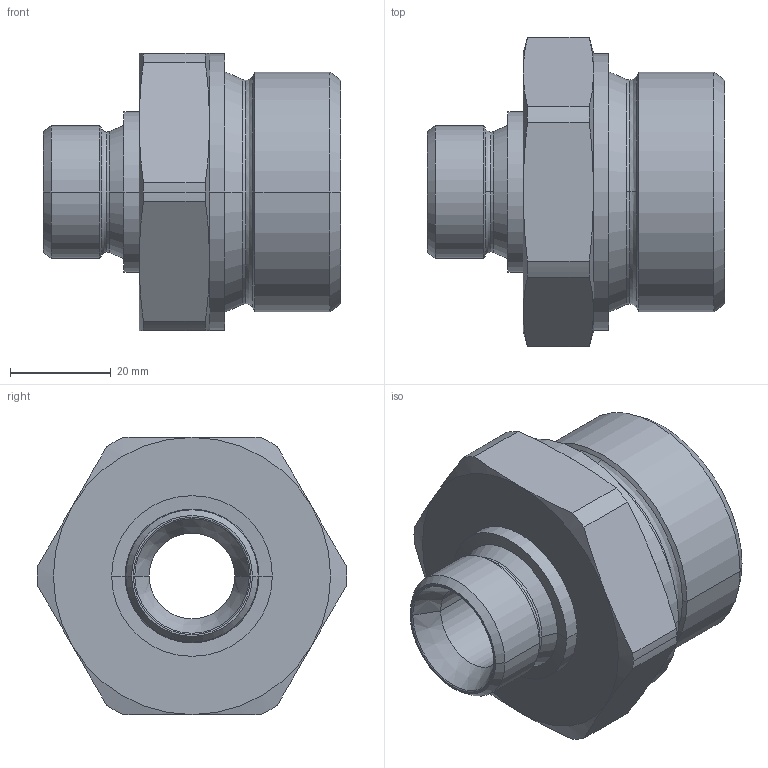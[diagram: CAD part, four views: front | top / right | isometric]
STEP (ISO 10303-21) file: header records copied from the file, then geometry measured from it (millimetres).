
FILE_DESCRIPTION((''),'2;1');
FILE_NAME('300521.stp','2006-09-11T08:13:15',(''),(''),'AutoCAD STEP 2000i','AutoCAD 2000i',', , ');
FILE_SCHEMA(('CONFIG_CONTROL_DESIGN'));
Length unit declared in the file: millimetre
Products named in the file (2): 300521.0; CHIAVE SMUSSATA#0
Assembly tree (1 placements, depth 2):
  300521.0
    CHIAVE SMUSSATA#0
Bounding box: 59 x 61.5 x 55 mm (x, y, z)
Volume: 54536.8 mm3; surface area: 17160.4 mm2
Topology: 1 solids, 1 shells, 76 faces, 178 edges, 106 vertices
Faces by surface type: cone 34, cylinder 20, plane 10, bspline 8, torus 4
Entity records: 2593 total; most frequent: CARTESIAN_POINT 762, DIRECTION 400, ORIENTED_EDGE 356, EDGE_CURVE 178, AXIS2_PLACEMENT_3D 176, VERTEX_POINT 106, CIRCLE 106, EDGE_LOOP 80
